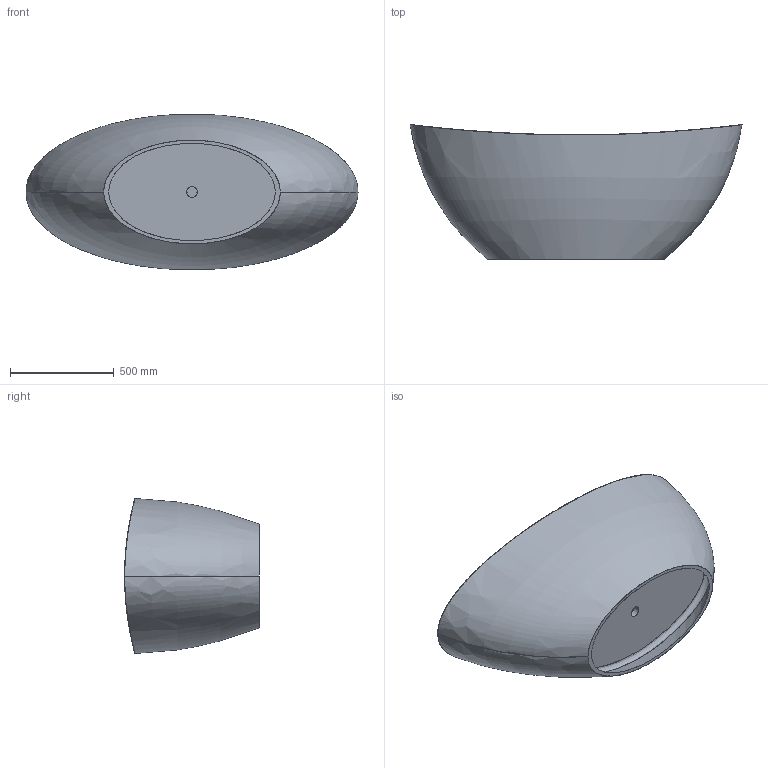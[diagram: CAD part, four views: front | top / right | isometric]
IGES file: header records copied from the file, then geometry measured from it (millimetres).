
Start section: SolidWorks IGES file using analytic representation for surfaces
Global section: file name: D:\Users\M.Szymanski\Desktop\Wanny\Namur\03. do przegrania\WOW_NAMUR_75x160.IGS; native system: SolidWorks 2011; preprocessor: SolidWorks 2011; author: M.Szymanski; date: 180416.082821; units: millimetre
Bounding box: 1599.64 x 649.83 x 749.9 mm (x, y, z)
Surface area: 4934973 mm2 (no closed solid volume)
Topology: 0 solids, 0 shells, 49 faces, 1048 edges, 1047 vertices
Faces by surface type: bspline 37, revolution 12
